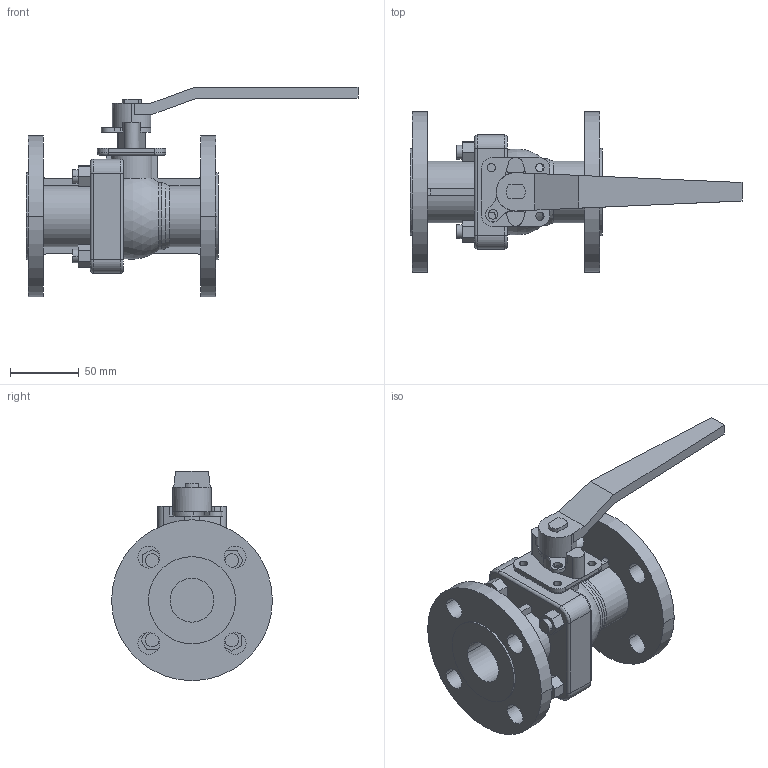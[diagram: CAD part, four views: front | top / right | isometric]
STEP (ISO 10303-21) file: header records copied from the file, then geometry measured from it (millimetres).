
FILE_DESCRIPTION( (''), '2;1');
FILE_NAME ('PC2091.16192.BLV-2SF ANSI150lb 32A_6078.stp','2026-05-28T09:07:48',(''),(''),'spGate 21.9.4 (****-****-****-****)','','');
FILE_SCHEMA (('AUTOMOTIVE_DESIGN'));
Length unit declared in the file: millimetre
Products named in the file (2): Assembly; BLV-2SFA 32A
Assembly tree (1 placements, depth 2):
  Assembly
    BLV-2SFA 32A
Bounding box: 242 x 117.3 x 152.65 mm (x, y, z)
Volume: 562010.2 mm3; surface area: 114167.1 mm2
Topology: 1 solids, 1 shells, 217 faces, 567 edges, 367 vertices
Faces by surface type: plane 100, cylinder 100, bspline 16, sphere 1
Entity records: 11731 total; most frequent: CARTESIAN_POINT 1743, DIRECTION 1152, ORIENTED_EDGE 1134, COLOUR_RGB 785, PRESENTATION_STYLE_ASSIGNMENT 785, STYLED_ITEM 785, EDGE_CURVE 567, DRAUGHTING_PRE_DEFINED_CURVE_FONT 567
